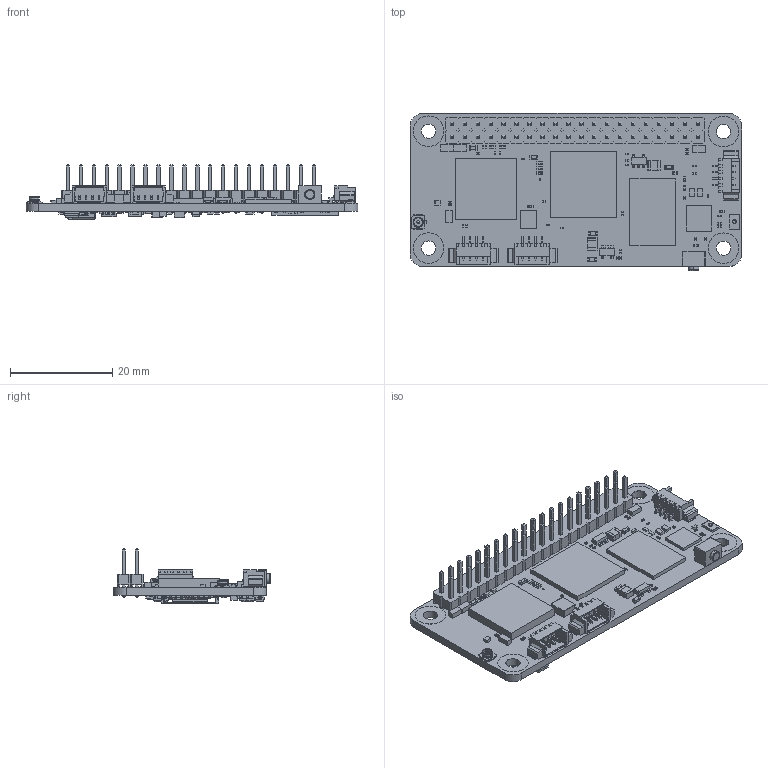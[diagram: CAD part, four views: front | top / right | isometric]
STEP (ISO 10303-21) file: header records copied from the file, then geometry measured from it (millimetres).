
FILE_DESCRIPTION((''),'2;1');
FILE_NAME('S0_PCBA_3D','2024-10-25T15:43:30',('admin'),(''),'CREO PARAMETRIC BY PTC INC, 2024273','CREO PARAMETRIC BY PTC INC, 2024273','');
FILE_SCHEMA(('CONFIG_CONTROL_DESIGN','SHAPE_APPEARANCE_LAYERS_GROUPS'));
Products named in the file (1): S0_PCBA_3D
Bounding box: 65.02 x 30.81 x 10.6 mm (x, y, z)
Volume: 4770.2 mm3; surface area: 9418.9 mm2
Topology: 201 solids, 212 shells, 8791 faces, 19654 edges, 11119 vertices
Faces by surface type: plane 5521, cylinder 2645, sphere 484, torus 129, cone 9, bspline 3
Entity records: 235519 total; most frequent: CARTESIAN_POINT 41659, DIRECTION 40509, ORIENTED_EDGE 38678, EDGE_CURVE 19339, VECTOR 14703, LINE 14703, AXIS2_PLACEMENT_3D 12903, VERTEX_POINT 11119
